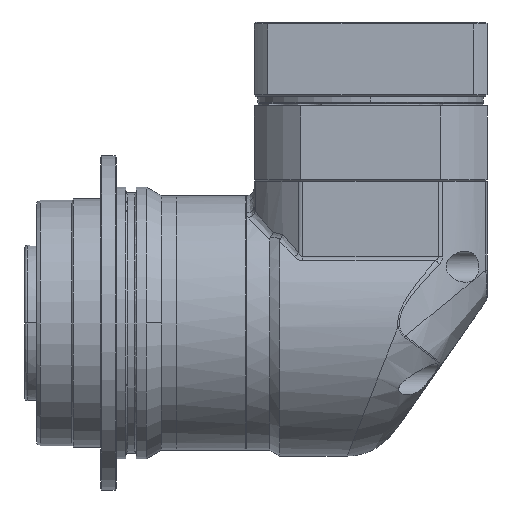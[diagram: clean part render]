
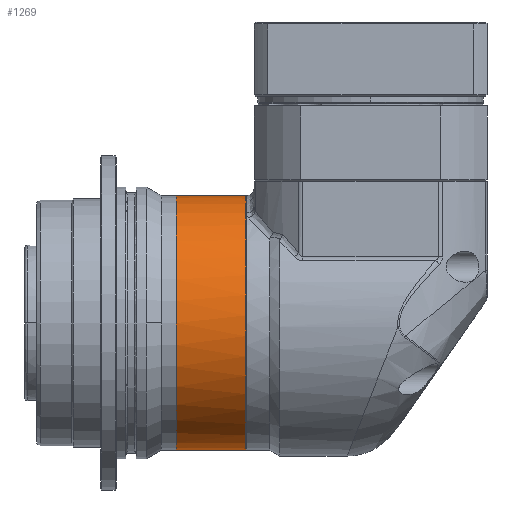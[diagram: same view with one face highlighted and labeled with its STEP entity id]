
A CAD part, front view. The second image highlights one B-rep face of the part: STEP entity #1269.
In plain terms, the highlighted cylindrical face has radius 32.75 mm (diameter 65.5 mm), a partial arc.
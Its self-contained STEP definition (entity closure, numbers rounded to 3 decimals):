
#1269 = ADVANCED_FACE ( 'NONE', ( #37530 ), #27426, .T. ) ;
#1327 = CARTESIAN_POINT ( 'NONE',  ( -13.2, -4.287, -32.539 ) ) ;
#1515 = CARTESIAN_POINT ( 'NONE',  ( -13.2, -32.539, -4.287 ) ) ;
#3659 = CARTESIAN_POINT ( 'NONE',  ( -13.2, -10.553, 31.077 ) ) ;
#5536 = VERTEX_POINT ( 'NONE', #32837 ) ;
#5755 = CARTESIAN_POINT ( 'NONE',  ( -13.2, -10.553, -31.077 ) ) ;
#5950 = CARTESIAN_POINT ( 'NONE',  ( -13.2, -32.75, 2.143 ) ) ;
#8173 = CARTESIAN_POINT ( 'NONE',  ( -13.2, -4.287, 32.539 ) ) ;
#10223 = CARTESIAN_POINT ( 'NONE',  ( -13.2, -16.413, -28.421 ) ) ;
#10410 = CARTESIAN_POINT ( 'NONE',  ( -13.2, -31.703, 8.492 ) ) ;
#11699 = AXIS2_PLACEMENT_3D ( 'NONE', #38385, #32378, #32001 ) ;
#12605 = CARTESIAN_POINT ( 'NONE',  ( -13.2, 0., 32.75 ) ) ;
#13713 = DIRECTION ( 'NONE',  ( -1., 0., 0. ) ) ;
#14556 = VERTEX_POINT ( 'NONE', #29081 ) ;
#14694 = CARTESIAN_POINT ( 'NONE',  ( -13.2, -21.642, -24.673 ) ) ;
#14807 = DIRECTION ( 'NONE',  ( -1., 0., 0. ) ) ;
#15746 = CARTESIAN_POINT ( 'NONE',  ( -31., 0., 32.75 ) ) ;
#15909 = VERTEX_POINT ( 'NONE', #46588 ) ;
#16329 = DIRECTION ( 'NONE',  ( -1., 0., 0. ) ) ;
#16837 = CARTESIAN_POINT ( 'NONE',  ( -13.2, -28.421, 16.413 ) ) ;
#17017 = EDGE_CURVE ( 'NONE', #5536, #14556, #29288, .T. ) ;
#17401 = VECTOR ( 'NONE', #13713, 1000. ) ;
#18851 = CARTESIAN_POINT ( 'NONE',  ( -13.2, -2.143, -32.75 ) ) ;
#19037 = CARTESIAN_POINT ( 'NONE',  ( -13.2, -26.04, -19.977 ) ) ;
#21144 = CARTESIAN_POINT ( 'NONE',  ( -13.2, -24.673, 21.642 ) ) ;
#23144 = CARTESIAN_POINT ( 'NONE',  ( -13.2, 0., -32.75 ) ) ;
#23335 = CARTESIAN_POINT ( 'NONE',  ( -13.2, -29.437, -14.513 ) ) ;
#25468 = CARTESIAN_POINT ( 'NONE',  ( -13.2, -19.977, 26.04 ) ) ;
#27426 = CYLINDRICAL_SURFACE ( 'NONE', #11699, 32.75 ) ;
#27663 = CARTESIAN_POINT ( 'NONE',  ( -13.2, -31.703, -8.492 ) ) ;
#27890 = ORIENTED_EDGE ( 'NONE', *, *, #45322, .T. ) ;
#28805 = LINE ( 'NONE', #39282, #17401 ) ;
#28971 = CARTESIAN_POINT ( 'NONE',  ( -13.2, 0., -32.75 ) ) ;
#29081 = CARTESIAN_POINT ( 'NONE',  ( -31., 0., 32.75 ) ) ;
#29288 = LINE ( 'NONE', #15746, #29338 ) ;
#29338 = VECTOR ( 'NONE', #14807, 1000. ) ;
#29792 = CARTESIAN_POINT ( 'NONE',  ( -13.2, -14.513, 29.437 ) ) ;
#30892 = CIRCLE ( 'NONE', #36259, 32.75 ) ;
#30934 = ORIENTED_EDGE ( 'NONE', *, *, #44271, .F. ) ;
#31825 = CARTESIAN_POINT ( 'NONE',  ( -13.2, -8.492, -31.703 ) ) ;
#32001 = DIRECTION ( 'NONE',  ( 0., 0., 1. ) ) ;
#32008 = CARTESIAN_POINT ( 'NONE',  ( -13.2, -32.75, -2.143 ) ) ;
#32378 = DIRECTION ( 'NONE',  ( -1., 0., 0. ) ) ;
#32837 = CARTESIAN_POINT ( 'NONE',  ( -13.2, 0., 32.75 ) ) ;
#34108 = CARTESIAN_POINT ( 'NONE',  ( -13.2, -8.492, 31.703 ) ) ;
#34747 = ORIENTED_EDGE ( 'NONE', *, *, #49618, .F. ) ;
#36102 = CARTESIAN_POINT ( 'NONE',  ( -13.2, -14.513, -29.437 ) ) ;
#36259 = AXIS2_PLACEMENT_3D ( 'NONE', #42085, #16329, #46331 ) ;
#36294 = CARTESIAN_POINT ( 'NONE',  ( -13.2, -32.539, 4.287 ) ) ;
#37530 = FACE_OUTER_BOUND ( 'NONE', #45164, .T. ) ;
#38242 = B_SPLINE_CURVE_WITH_KNOTS ( 'NONE', 3,
 ( #23144, #18851, #1327, #31825, #5755, #36102, #10223, #40455, #14694, #44796, #19037, #48994, #23335, #53118, #27663, #1515, #32008, #5950, #36294, #10410, #40639, #42577, #16837, #46806, #21144, #51026, #25468, #55140, #29792, #3659, #34108, #8173, #38403, #12605 ),
 .UNSPECIFIED., .F., .F.,
 ( 4, 2, 2, 2, 2, 2, 2, 2, 2, 2, 2, 2, 2, 2, 2, 2, 4 ),
 ( 0., 0.063, 0.125, 0.188, 0.25, 0.313, 0.375, 0.438, 0.5, 0.563, 0.625, 0.688, 0.75, 0.813, 0.875, 0.938, 1. ),
 .UNSPECIFIED. ) ;
#38385 = CARTESIAN_POINT ( 'NONE',  ( -31., 0., 0. ) ) ;
#38403 = CARTESIAN_POINT ( 'NONE',  ( -13.2, -2.143, 32.75 ) ) ;
#39282 = CARTESIAN_POINT ( 'NONE',  ( -31., 0., -32.75 ) ) ;
#40455 = CARTESIAN_POINT ( 'NONE',  ( -13.2, -19.977, -26.04 ) ) ;
#40639 = CARTESIAN_POINT ( 'NONE',  ( -13.2, -31.077, 10.553 ) ) ;
#42085 = CARTESIAN_POINT ( 'NONE',  ( -31., 0., 0. ) ) ;
#42577 = CARTESIAN_POINT ( 'NONE',  ( -13.2, -29.437, 14.513 ) ) ;
#44013 = VERTEX_POINT ( 'NONE', #28971 ) ;
#44271 = EDGE_CURVE ( 'NONE', #15909, #14556, #30892, .T. ) ;
#44796 = CARTESIAN_POINT ( 'NONE',  ( -13.2, -24.673, -21.642 ) ) ;
#45164 = EDGE_LOOP ( 'NONE', ( #34747, #27890, #55565, #30934 ) ) ;
#45322 = EDGE_CURVE ( 'NONE', #44013, #5536, #38242, .T. ) ;
#46331 = DIRECTION ( 'NONE',  ( 0., 0., 1. ) ) ;
#46588 = CARTESIAN_POINT ( 'NONE',  ( -31., 0., -32.75 ) ) ;
#46806 = CARTESIAN_POINT ( 'NONE',  ( -13.2, -26.04, 19.977 ) ) ;
#48994 = CARTESIAN_POINT ( 'NONE',  ( -13.2, -28.421, -16.413 ) ) ;
#49618 = EDGE_CURVE ( 'NONE', #44013, #15909, #28805, .T. ) ;
#51026 = CARTESIAN_POINT ( 'NONE',  ( -13.2, -21.642, 24.673 ) ) ;
#53118 = CARTESIAN_POINT ( 'NONE',  ( -13.2, -31.077, -10.553 ) ) ;
#55140 = CARTESIAN_POINT ( 'NONE',  ( -13.2, -16.413, 28.421 ) ) ;
#55565 = ORIENTED_EDGE ( 'NONE', *, *, #17017, .T. ) ;
